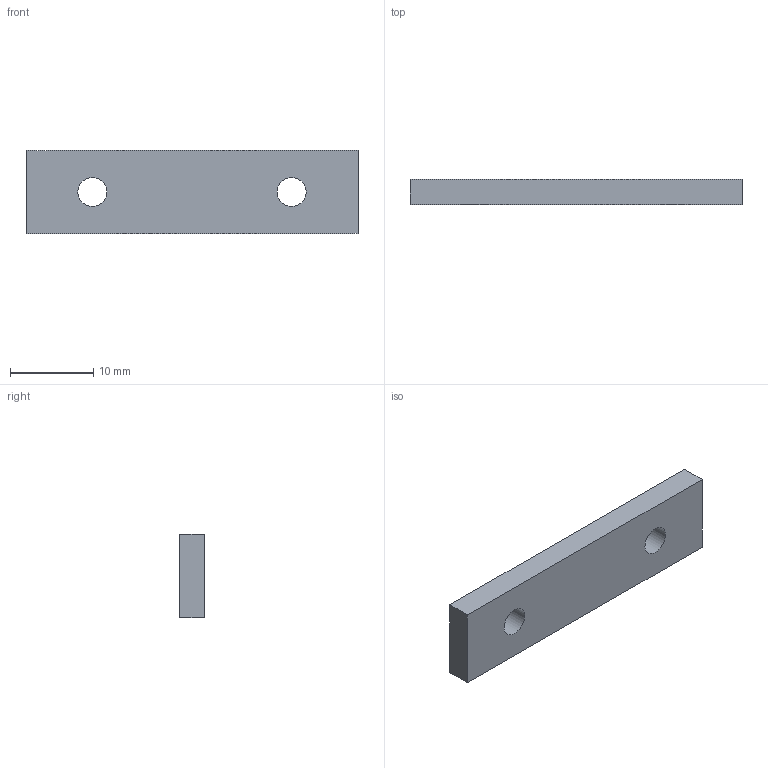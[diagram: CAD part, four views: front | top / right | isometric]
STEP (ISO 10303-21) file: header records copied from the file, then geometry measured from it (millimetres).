
FILE_DESCRIPTION(('Open CASCADE Model'),'2;1');
FILE_NAME('Open CASCADE Shape Model','2026-08-16T15:13:29',('Author'),( 'Open CASCADE'),'Open CASCADE STEP processor 7.9','Open CASCADE 7.9' ,'Unknown');
FILE_SCHEMA(('AUTOMOTIVE_DESIGN { 1 0 10303 214 1 1 1 1 }'));
Length unit declared in the file: millimetre
Products named in the file (1): Open CASCADE STEP translator 7.9 7
Bounding box: 40 x 3 x 10 mm (x, y, z)
Volume: 1142.3 mm3; surface area: 1127.5 mm2
Topology: 1 solids, 1 shells, 8 faces, 18 edges, 12 vertices
Faces by surface type: plane 6, cylinder 2
Full cylindrical faces by diameter (mm): 3.5 x2
Entity records: 478 total; most frequent: DIRECTION 76, CARTESIAN_POINT 75, LINE 46, VECTOR 46, ORIENTED_EDGE 36, PCURVE 36, DEFINITIONAL_REPRESENTATION 36, EDGE_CURVE 18
